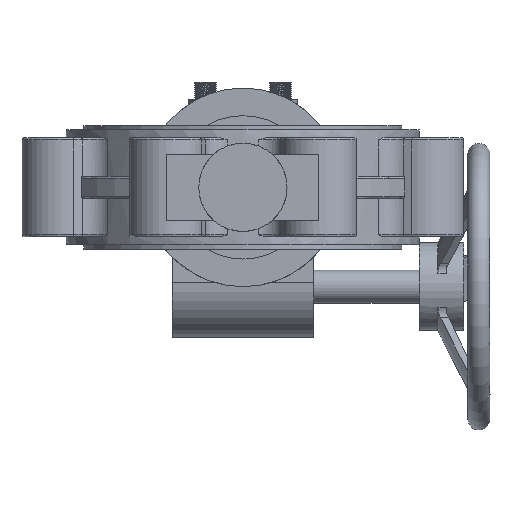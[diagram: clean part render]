
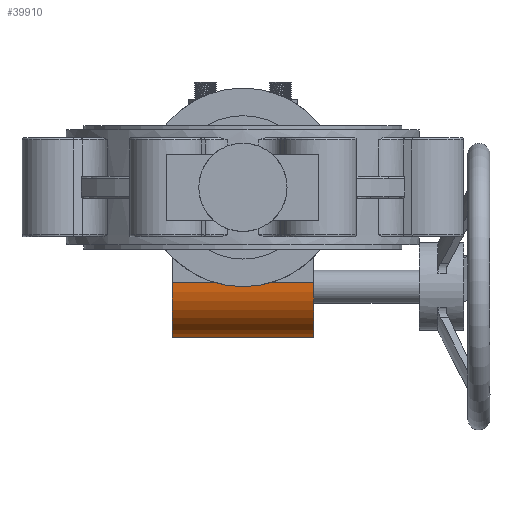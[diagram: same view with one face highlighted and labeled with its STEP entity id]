
A CAD part, front view. The second image highlights one B-rep face of the part: STEP entity #39910.
In plain terms, the highlighted cylindrical face has radius 25 mm (diameter 50 mm), a partial arc.
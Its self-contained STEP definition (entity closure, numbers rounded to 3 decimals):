
#209 = EDGE_CURVE ( 'NONE', #43975, #17080, #8005, .T. ) ;
#3020 = VECTOR ( 'NONE', #22954, 1000. ) ;
#4190 = DIRECTION ( 'NONE',  ( -1., 0., 0. ) ) ;
#5367 = AXIS2_PLACEMENT_3D ( 'NONE', #14293, #39047, #14936 ) ;
#6034 = EDGE_CURVE ( 'NONE', #27464, #39204, #43993, .T. ) ;
#7569 = CARTESIAN_POINT ( 'NONE',  ( 18.131, 155.647, -68. ) ) ;
#8005 = CIRCLE ( 'NONE', #13854, 25. ) ;
#9817 = CARTESIAN_POINT ( 'NONE',  ( 50.131, 155.647, -68. ) ) ;
#10868 = LINE ( 'NONE', #44952, #12284 ) ;
#11347 = VERTEX_POINT ( 'NONE', #27835 ) ;
#11448 = ORIENTED_EDGE ( 'NONE', *, *, #21089, .F. ) ;
#11663 = EDGE_CURVE ( 'NONE', #39204, #43975, #33408, .T. ) ;
#12284 = VECTOR ( 'NONE', #38615, 1000. ) ;
#12399 = VERTEX_POINT ( 'NONE', #42581 ) ;
#12993 = AXIS2_PLACEMENT_3D ( 'NONE', #21132, #25016, #31615 ) ;
#13854 = AXIS2_PLACEMENT_3D ( 'NONE', #34493, #17905, #17698 ) ;
#14206 = EDGE_CURVE ( 'NONE', #11347, #12399, #14849, .T. ) ;
#14293 = CARTESIAN_POINT ( 'NONE',  ( -13.869, 155.647, -43. ) ) ;
#14849 = CIRCLE ( 'NONE', #5367, 25. ) ;
#14936 = DIRECTION ( 'NONE',  ( 0., 0., -1. ) ) ;
#17069 = FACE_OUTER_BOUND ( 'NONE', #21523, .T. ) ;
#17080 = VERTEX_POINT ( 'NONE', #9817 ) ;
#17698 = DIRECTION ( 'NONE',  ( 0., 0., -1. ) ) ;
#17905 = DIRECTION ( 'NONE',  ( 1., 0., 0. ) ) ;
#20443 = CARTESIAN_POINT ( 'NONE',  ( 31.397, 130.647, -43. ) ) ;
#21089 = EDGE_CURVE ( 'NONE', #12399, #27464, #10868, .T. ) ;
#21132 = CARTESIAN_POINT ( 'NONE',  ( 18.131, 155.647, -43. ) ) ;
#21523 = EDGE_LOOP ( 'NONE', ( #29177, #40106, #32139, #11448, #35605, #38901 ) ) ;
#22377 = CARTESIAN_POINT ( 'NONE',  ( 4.864, 130.647, -43. ) ) ;
#22902 = CARTESIAN_POINT ( 'NONE',  ( 18.131, 130.647, -43. ) ) ;
#22952 = VECTOR ( 'NONE', #37255, 1000. ) ;
#22954 = DIRECTION ( 'NONE',  ( 1., 0., 0. ) ) ;
#24560 = CYLINDRICAL_SURFACE ( 'NONE', #12993, 25. ) ;
#25016 = DIRECTION ( 'NONE',  ( -1., 0., 0. ) ) ;
#27464 = VERTEX_POINT ( 'NONE', #22377 ) ;
#27835 = CARTESIAN_POINT ( 'NONE',  ( -13.869, 155.647, -68. ) ) ;
#29056 = VECTOR ( 'NONE', #4190, 1000. ) ;
#29177 = ORIENTED_EDGE ( 'NONE', *, *, #209, .F. ) ;
#31216 = CARTESIAN_POINT ( 'NONE',  ( 50.131, 130.647, -43. ) ) ;
#31615 = DIRECTION ( 'NONE',  ( 0., 0., 1. ) ) ;
#32139 = ORIENTED_EDGE ( 'NONE', *, *, #6034, .F. ) ;
#33408 = LINE ( 'NONE', #39959, #3020 ) ;
#34493 = CARTESIAN_POINT ( 'NONE',  ( 50.131, 155.647, -43. ) ) ;
#35605 = ORIENTED_EDGE ( 'NONE', *, *, #14206, .F. ) ;
#35793 = LINE ( 'NONE', #7569, #29056 ) ;
#37255 = DIRECTION ( 'NONE',  ( 1., 0., 0. ) ) ;
#38615 = DIRECTION ( 'NONE',  ( 1., 0., 0. ) ) ;
#38901 = ORIENTED_EDGE ( 'NONE', *, *, #44253, .F. ) ;
#39047 = DIRECTION ( 'NONE',  ( -1., 0., 0. ) ) ;
#39204 = VERTEX_POINT ( 'NONE', #20443 ) ;
#39910 = ADVANCED_FACE ( 'NONE', ( #17069 ), #24560, .T. ) ;
#39959 = CARTESIAN_POINT ( 'NONE',  ( 18.131, 130.647, -43. ) ) ;
#40106 = ORIENTED_EDGE ( 'NONE', *, *, #11663, .F. ) ;
#42581 = CARTESIAN_POINT ( 'NONE',  ( -13.869, 130.647, -43. ) ) ;
#43975 = VERTEX_POINT ( 'NONE', #31216 ) ;
#43993 = LINE ( 'NONE', #22902, #22952 ) ;
#44253 = EDGE_CURVE ( 'NONE', #17080, #11347, #35793, .T. ) ;
#44952 = CARTESIAN_POINT ( 'NONE',  ( 18.131, 130.647, -43. ) ) ;
